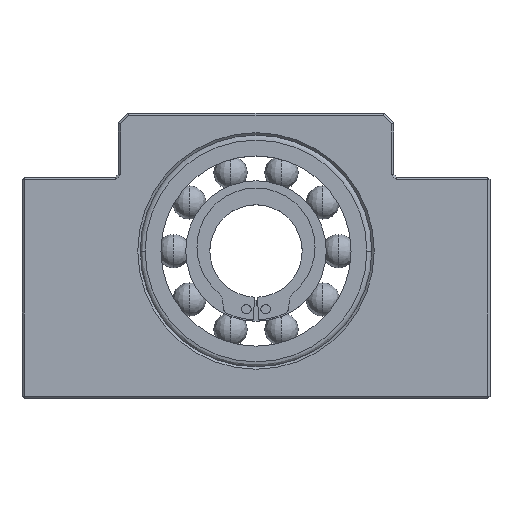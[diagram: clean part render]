
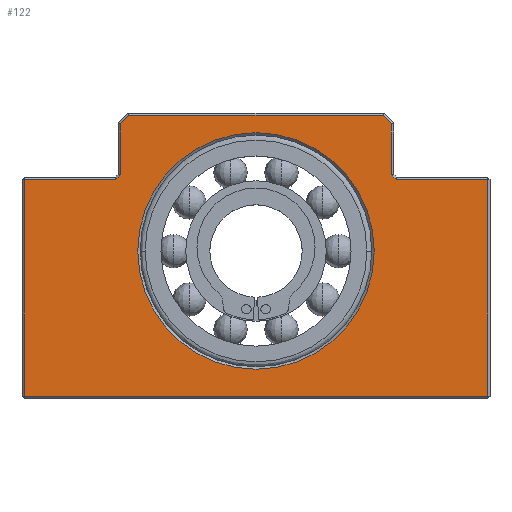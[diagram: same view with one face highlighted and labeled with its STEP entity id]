
A CAD part, top view. The second image highlights one B-rep face of the part: STEP entity #122.
In plain terms, the highlighted planar face has unit normal (0, 0, 1).
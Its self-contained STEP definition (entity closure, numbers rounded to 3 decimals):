
#61 = VERTEX_POINT ( 'NONE', #1044 ) ;
#102 = EDGE_CURVE ( 'NONE', #138, #140, #1327, .T. ) ;
#103 = ORIENTED_EDGE ( 'NONE', *, *, #104, .T. ) ;
#104 = EDGE_CURVE ( 'NONE', #140, #105, #1323, .T. ) ;
#105 = VERTEX_POINT ( 'NONE', #1319 ) ;
#106 = ORIENTED_EDGE ( 'NONE', *, *, #107, .T. ) ;
#107 = EDGE_CURVE ( 'NONE', #105, #131, #1318, .T. ) ;
#116 = EDGE_CURVE ( 'NONE', #1161, #1163, #1507, .T. ) ;
#117 = ORIENTED_EDGE ( 'NONE', *, *, #118, .T. ) ;
#118 = EDGE_CURVE ( 'NONE', #1163, #119, #1503, .T. ) ;
#119 = VERTEX_POINT ( 'NONE', #1499 ) ;
#122 = ADVANCED_FACE ( 'NONE', ( #1531, #1530 ), #1529, .F. ) ;
#123 = EDGE_LOOP ( 'NONE', ( #124, #125 ) ) ;
#124 = ORIENTED_EDGE ( 'NONE', *, *, #1261, .T. ) ;
#125 = ORIENTED_EDGE ( 'NONE', *, *, #126, .T. ) ;
#126 = EDGE_CURVE ( 'NONE', #1243, #1240, #1426, .T. ) ;
#127 = EDGE_LOOP ( 'NONE', ( #128, #150, #1159, #1162, #117, #141, #144, #147, #136, #139, #103, #106 ) ) ;
#128 = ORIENTED_EDGE ( 'NONE', *, *, #129, .F. ) ;
#129 = EDGE_CURVE ( 'NONE', #130, #131, #1421, .T. ) ;
#130 = VERTEX_POINT ( 'NONE', #1417 ) ;
#131 = VERTEX_POINT ( 'NONE', #1416 ) ;
#136 = ORIENTED_EDGE ( 'NONE', *, *, #137, .T. ) ;
#137 = EDGE_CURVE ( 'NONE', #149, #138, #1411, .T. ) ;
#138 = VERTEX_POINT ( 'NONE', #1407 ) ;
#139 = ORIENTED_EDGE ( 'NONE', *, *, #102, .T. ) ;
#140 = VERTEX_POINT ( 'NONE', #1406 ) ;
#141 = ORIENTED_EDGE ( 'NONE', *, *, #142, .T. ) ;
#142 = EDGE_CURVE ( 'NONE', #119, #143, #1405, .T. ) ;
#143 = VERTEX_POINT ( 'NONE', #1401 ) ;
#144 = ORIENTED_EDGE ( 'NONE', *, *, #145, .F. ) ;
#145 = EDGE_CURVE ( 'NONE', #146, #143, #1400, .T. ) ;
#146 = VERTEX_POINT ( 'NONE', #1396 ) ;
#147 = ORIENTED_EDGE ( 'NONE', *, *, #148, .T. ) ;
#148 = EDGE_CURVE ( 'NONE', #146, #149, #1519, .T. ) ;
#149 = VERTEX_POINT ( 'NONE', #1515 ) ;
#150 = ORIENTED_EDGE ( 'NONE', *, *, #151, .T. ) ;
#151 = EDGE_CURVE ( 'NONE', #130, #61, #1514, .T. ) ;
#1044 = CARTESIAN_POINT ( 'NONE',  ( -47., 44.5, 13. ) ) ;
#1159 = ORIENTED_EDGE ( 'NONE', *, *, #1160, .T. ) ;
#1160 = EDGE_CURVE ( 'NONE', #61, #1161, #3398, .T. ) ;
#1161 = VERTEX_POINT ( 'NONE', #3390 ) ;
#1162 = ORIENTED_EDGE ( 'NONE', *, *, #116, .T. ) ;
#1163 = VERTEX_POINT ( 'NONE', #3389 ) ;
#1240 = VERTEX_POINT ( 'NONE', #3742 ) ;
#1243 = VERTEX_POINT ( 'NONE', #3737 ) ;
#1261 = EDGE_CURVE ( 'NONE', #1240, #1243, #3701, .T. ) ;
#1315 = DIRECTION ( 'NONE',  ( 0., -1., 0. ) ) ;
#1316 = VECTOR ( 'NONE', #1315, 1000. ) ;
#1317 = CARTESIAN_POINT ( 'NONE',  ( -27.5, 45., 13. ) ) ;
#1318 = LINE ( 'NONE', #1317, #1316 ) ;
#1319 = CARTESIAN_POINT ( 'NONE',  ( -27.5, 55.793, 13. ) ) ;
#1320 = DIRECTION ( 'NONE',  ( -0.707, -0.707, 0. ) ) ;
#1321 = VECTOR ( 'NONE', #1320, 1000. ) ;
#1322 = CARTESIAN_POINT ( 'NONE',  ( -27.646, 55.646, 13. ) ) ;
#1323 = LINE ( 'NONE', #1322, #1321 ) ;
#1324 = DIRECTION ( 'NONE',  ( -1., 0., 0. ) ) ;
#1325 = VECTOR ( 'NONE', #1324, 1000. ) ;
#1326 = CARTESIAN_POINT ( 'NONE',  ( -47.5, 57.5, 13. ) ) ;
#1327 = LINE ( 'NONE', #1326, #1325 ) ;
#1395 = DIRECTION ( 'NONE',  ( -1., 0., 0. ) ) ;
#1396 = CARTESIAN_POINT ( 'NONE',  ( 27.5, 45.5, 13. ) ) ;
#1397 = DIRECTION ( 'NONE',  ( 0.707, -0.707, 0. ) ) ;
#1398 = VECTOR ( 'NONE', #1397, 1000. ) ;
#1399 = CARTESIAN_POINT ( 'NONE',  ( 28.5, 44.5, 13. ) ) ;
#1400 = LINE ( 'NONE', #1399, #1398 ) ;
#1401 = CARTESIAN_POINT ( 'NONE',  ( 28.5, 44.5, 13. ) ) ;
#1402 = DIRECTION ( 'NONE',  ( -1., 0., 0. ) ) ;
#1403 = VECTOR ( 'NONE', #1402, 1000. ) ;
#1404 = CARTESIAN_POINT ( 'NONE',  ( -47.5, 44.5, 13. ) ) ;
#1405 = LINE ( 'NONE', #1404, #1403 ) ;
#1406 = CARTESIAN_POINT ( 'NONE',  ( -25.793, 57.5, 13. ) ) ;
#1407 = CARTESIAN_POINT ( 'NONE',  ( 25.793, 57.5, 13. ) ) ;
#1408 = DIRECTION ( 'NONE',  ( -0.707, 0.707, 0. ) ) ;
#1409 = VECTOR ( 'NONE', #1408, 1000. ) ;
#1410 = CARTESIAN_POINT ( 'NONE',  ( 25.646, 57.646, 13. ) ) ;
#1411 = LINE ( 'NONE', #1410, #1409 ) ;
#1416 = CARTESIAN_POINT ( 'NONE',  ( -27.5, 45.5, 13. ) ) ;
#1417 = CARTESIAN_POINT ( 'NONE',  ( -28.5, 44.5, 13. ) ) ;
#1418 = DIRECTION ( 'NONE',  ( 0.707, 0.707, 0. ) ) ;
#1419 = VECTOR ( 'NONE', #1418, 1000. ) ;
#1420 = CARTESIAN_POINT ( 'NONE',  ( -27.5, 45.5, 13. ) ) ;
#1421 = LINE ( 'NONE', #1420, #1419 ) ;
#1422 = DIRECTION ( 'NONE',  ( -1., 0., 0. ) ) ;
#1423 = DIRECTION ( 'NONE',  ( 0., 0., -1. ) ) ;
#1424 = CARTESIAN_POINT ( 'NONE',  ( 0., 30., 13. ) ) ;
#1425 = AXIS2_PLACEMENT_3D ( 'NONE', #1424, #1423, #1422 ) ;
#1426 = CIRCLE ( 'NONE', #1425, 24. ) ;
#1499 = CARTESIAN_POINT ( 'NONE',  ( 47., 44.5, 13. ) ) ;
#1500 = DIRECTION ( 'NONE',  ( 0., 1., 0. ) ) ;
#1501 = VECTOR ( 'NONE', #1500, 1000. ) ;
#1502 = CARTESIAN_POINT ( 'NONE',  ( 47., 45., 13. ) ) ;
#1503 = LINE ( 'NONE', #1502, #1501 ) ;
#1504 = DIRECTION ( 'NONE',  ( 1., 0., 0. ) ) ;
#1505 = VECTOR ( 'NONE', #1504, 1000. ) ;
#1506 = CARTESIAN_POINT ( 'NONE',  ( -47.5, 0.5, 13. ) ) ;
#1507 = LINE ( 'NONE', #1506, #1505 ) ;
#1512 = VECTOR ( 'NONE', #1395, 1000. ) ;
#1513 = CARTESIAN_POINT ( 'NONE',  ( -47.5, 44.5, 13. ) ) ;
#1514 = LINE ( 'NONE', #1513, #1512 ) ;
#1515 = CARTESIAN_POINT ( 'NONE',  ( 27.5, 55.793, 13. ) ) ;
#1516 = DIRECTION ( 'NONE',  ( 0., 1., 0. ) ) ;
#1517 = VECTOR ( 'NONE', #1516, 1000. ) ;
#1518 = CARTESIAN_POINT ( 'NONE',  ( 27.5, 45., 13. ) ) ;
#1519 = LINE ( 'NONE', #1518, #1517 ) ;
#1525 = DIRECTION ( 'NONE',  ( -1., 0., 0. ) ) ;
#1526 = DIRECTION ( 'NONE',  ( 0., 0., -1. ) ) ;
#1527 = CARTESIAN_POINT ( 'NONE',  ( -47.5, 45., 13. ) ) ;
#1528 = AXIS2_PLACEMENT_3D ( 'NONE', #1527, #1526, #1525 ) ;
#1529 = PLANE ( 'NONE',  #1528 ) ;
#1530 = FACE_OUTER_BOUND ( 'NONE', #127, .T. ) ;
#1531 = FACE_BOUND ( 'NONE', #123, .T. ) ;
#3389 = CARTESIAN_POINT ( 'NONE',  ( 47., 0.5, 13. ) ) ;
#3390 = CARTESIAN_POINT ( 'NONE',  ( -47., 0.5, 13. ) ) ;
#3391 = DIRECTION ( 'NONE',  ( 0., -1., 0. ) ) ;
#3392 = VECTOR ( 'NONE', #3391, 1000. ) ;
#3393 = CARTESIAN_POINT ( 'NONE',  ( -47., 45., 13. ) ) ;
#3398 = LINE ( 'NONE', #3393, #3392 ) ;
#3698 = DIRECTION ( 'NONE',  ( -1., 0., 0. ) ) ;
#3699 = DIRECTION ( 'NONE',  ( 0., 0., -1. ) ) ;
#3700 = AXIS2_PLACEMENT_3D ( 'NONE', #3706, #3699, #3698 ) ;
#3701 = CIRCLE ( 'NONE', #3700, 24. ) ;
#3706 = CARTESIAN_POINT ( 'NONE',  ( 0., 30., 13. ) ) ;
#3737 = CARTESIAN_POINT ( 'NONE',  ( -24., 30., 13. ) ) ;
#3742 = CARTESIAN_POINT ( 'NONE',  ( 24., 30., 13. ) ) ;
